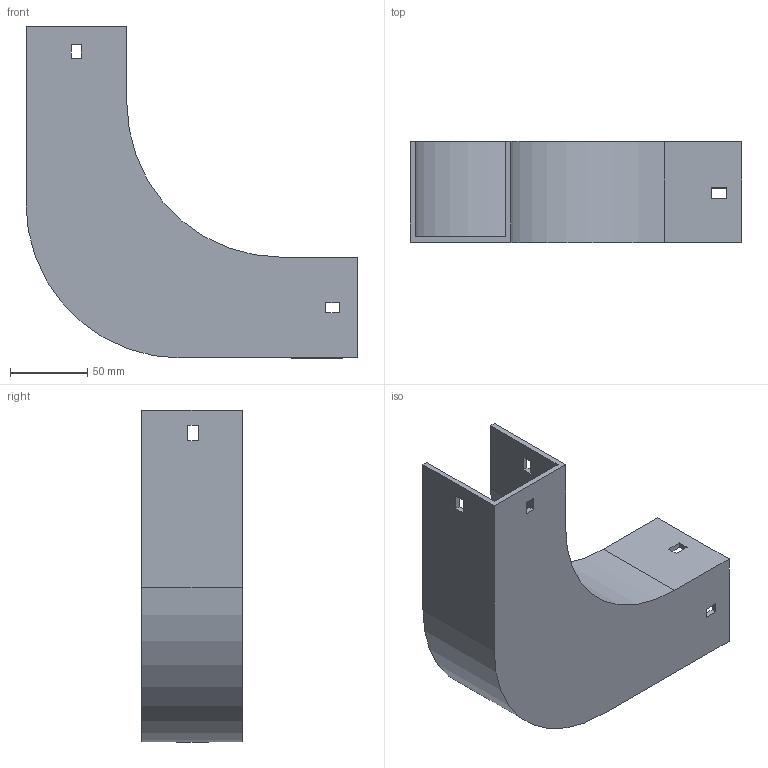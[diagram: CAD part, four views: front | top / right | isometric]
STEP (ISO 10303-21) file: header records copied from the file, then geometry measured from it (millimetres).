
FILE_DESCRIPTION (( 'STEP AP214' ), '1' );
FILE_NAME ('10B1H065.step', '2025-02-21T09:40:52', ( '' ), ( '' ), 'SwSTEP 2.0', 'SolidWorks 2023', '' );
FILE_SCHEMA (( 'AUTOMOTIVE_DESIGN' ));
Length unit declared in the file: millimetre
Products named in the file (1): 10B1H065
Bounding box: 215.5 x 65.5 x 215.5 mm (x, y, z)
Volume: 222400.9 mm3; surface area: 131363.8 mm2
Topology: 1 solids, 1 shells, 42 faces, 120 edges, 80 vertices
Faces by surface type: plane 38, cylinder 4
Entity records: 1399 total; most frequent: CARTESIAN_POINT 243, ORIENTED_EDGE 240, DIRECTION 214, EDGE_CURVE 120, VECTOR 112, LINE 112, VERTEX_POINT 80, EDGE_LOOP 54
